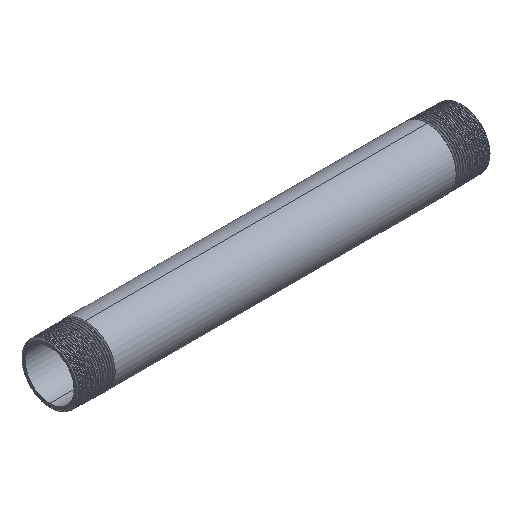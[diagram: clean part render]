
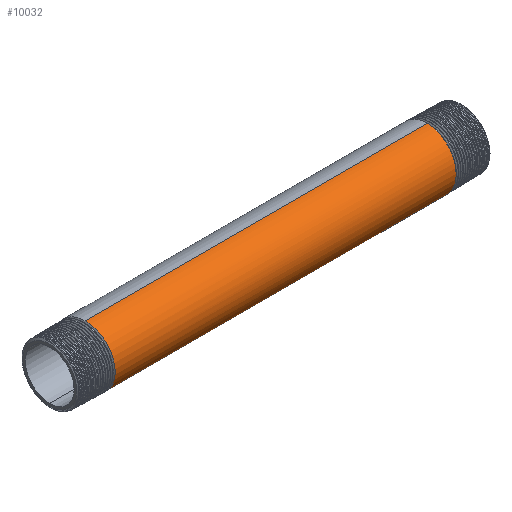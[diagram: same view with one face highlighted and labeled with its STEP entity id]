
A CAD part, isometric view. The second image highlights one B-rep face of the part: STEP entity #10032.
In plain terms, the highlighted cylindrical face has radius 8.6 mm (diameter 17.2 mm), a partial arc.
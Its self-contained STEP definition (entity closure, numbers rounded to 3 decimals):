
#171 = CARTESIAN_POINT ( 'NONE',  ( 49.734, -0.246, 8.597 ) ) ;
#228 = CARTESIAN_POINT ( 'NONE',  ( 49.718, -1.402, 8.49 ) ) ;
#327 = ORIENTED_EDGE ( 'NONE', *, *, #8134, .F. ) ;
#496 = ORIENTED_EDGE ( 'NONE', *, *, #2095, .T. ) ;
#588 = CARTESIAN_POINT ( 'NONE',  ( 49.585, -8.444, 1.66 ) ) ;
#695 = CARTESIAN_POINT ( 'NONE',  ( 49.443, -4.133, -7.544 ) ) ;
#750 = CARTESIAN_POINT ( 'NONE',  ( 49.552, -8.598, -0.766 ) ) ;
#803 = CARTESIAN_POINT ( 'NONE',  ( 49.418, -2.416, -8.28 ) ) ;
#861 = CARTESIAN_POINT ( 'NONE',  ( 49.634, -6.84, 5.244 ) ) ;
#980 = CARTESIAN_POINT ( 'NONE',  ( 49.624, -7.315, 4.524 ) ) ;
#1231 = B_SPLINE_CURVE_WITH_KNOTS ( 'NONE', 3,
 ( #6712, #10164, #1494, #8580, #803, #7618, #1551, #695, #2544, #3402, #4249, #10219, #6019, #10974, #7561, #1603, #4997, #4143, #11026, #7729, #6871, #11081, #3180, #3236, #3292, #6765, #750, #10278, #3343, #8528, #2433, #1709, #588, #4197, #7677, #11135, #5959, #9429, #4036, #6655, #4943, #8634, #1764, #980, #8690, #861, #6924, #4364, #3513, #10621, #5393, #228, #8861, #7091, #1926, #171, #7838, #7145, #10394, #10450 ),
 .UNSPECIFIED., .F., .F.,
 ( 4, 2, 2, 2, 2, 2, 2, 2, 2, 2, 2, 2, 2, 2, 2, 2, 2, 2, 2, 1, 2, 2, 1, 2, 2, 2, 2, 2, 1, 1, 2, 4 ),
 ( 0., 0.001, 0.003, 0.004, 0.004, 0.004, 0.006, 0.007, 0.008, 0.008, 0.008, 0.009, 0.01, 0.012, 0.012, 0.012, 0.013, 0.015, 0.015, 0.015, 0.016, 0.016, 0.016, 0.016, 0.018, 0.02, 0.022, 0.023, 0.023, 0.023, 0.023, 0.023 ),
 .UNSPECIFIED. ) ;
#1313 = ORIENTED_EDGE ( 'NONE', *, *, #5224, .T. ) ;
#1335 = VECTOR ( 'NONE', #4617, 1000. ) ;
#1494 = CARTESIAN_POINT ( 'NONE',  ( 49.397, -0.824, -8.576 ) ) ;
#1510 = CARTESIAN_POINT ( 'NONE',  ( -49.388, 0., -8.6 ) ) ;
#1551 = CARTESIAN_POINT ( 'NONE',  ( 49.436, -3.651, -7.795 ) ) ;
#1603 = CARTESIAN_POINT ( 'NONE',  ( 49.501, -7.295, -4.555 ) ) ;
#1709 = CARTESIAN_POINT ( 'NONE',  ( 49.581, -8.5, 1.348 ) ) ;
#1722 = CARTESIAN_POINT ( 'NONE',  ( -49.504, -7.448, -4.3 ) ) ;
#1761 = VERTEX_POINT ( 'NONE', #1510 ) ;
#1764 = CARTESIAN_POINT ( 'NONE',  ( 49.622, -7.396, 4.388 ) ) ;
#1926 = CARTESIAN_POINT ( 'NONE',  ( 49.731, -0.493, 8.588 ) ) ;
#2095 = EDGE_CURVE ( 'NONE', #4595, #6316, #1231, .T. ) ;
#2124 = LINE ( 'NONE', #5589, #1335 ) ;
#2433 = CARTESIAN_POINT ( 'NONE',  ( 49.574, -8.559, 0.855 ) ) ;
#2502 = CARTESIAN_POINT ( 'NONE',  ( -49.738, 0., 8.6 ) ) ;
#2544 = CARTESIAN_POINT ( 'NONE',  ( 49.446, -4.297, -7.452 ) ) ;
#3180 = CARTESIAN_POINT ( 'NONE',  ( 49.512, -7.739, -3.759 ) ) ;
#3236 = CARTESIAN_POINT ( 'NONE',  ( 49.52, -8.026, -3.124 ) ) ;
#3292 = CARTESIAN_POINT ( 'NONE',  ( 49.527, -8.214, -2.62 ) ) ;
#3343 = CARTESIAN_POINT ( 'NONE',  ( 49.567, -8.595, 0.341 ) ) ;
#3402 = CARTESIAN_POINT ( 'NONE',  ( 49.451, -4.607, -7.264 ) ) ;
#3496 = EDGE_CURVE ( 'NONE', #1761, #8803, #8864, .T. ) ;
#3513 = CARTESIAN_POINT ( 'NONE',  ( 49.676, -4.333, 7.514 ) ) ;
#3529 = CARTESIAN_POINT ( 'NONE',  ( -49.679, -4.965, 8.6 ) ) ;
#3607 = DIRECTION ( 'NONE',  ( 0., 0., 1. ) ) ;
#3664 = CYLINDRICAL_SURFACE ( 'NONE', #8050, 8.6 ) ;
#3742 = ORIENTED_EDGE ( 'NONE', *, *, #3496, .F. ) ;
#4036 = CARTESIAN_POINT ( 'NONE',  ( 49.62, -7.478, 4.248 ) ) ;
#4143 = CARTESIAN_POINT ( 'NONE',  ( 49.504, -7.428, -4.334 ) ) ;
#4197 = CARTESIAN_POINT ( 'NONE',  ( 49.597, -8.237, 2.544 ) ) ;
#4249 = CARTESIAN_POINT ( 'NONE',  ( 49.453, -4.755, -7.168 ) ) ;
#4322 = CARTESIAN_POINT ( 'NONE',  ( -49.563, -9.93, 0. ) ) ;
#4364 = CARTESIAN_POINT ( 'NONE',  ( 49.662, -5.287, 6.876 ) ) ;
#4381 = CARTESIAN_POINT ( 'NONE',  ( -49.388, 0., -8.6 ) ) ;
#4595 = VERTEX_POINT ( 'NONE', #10611 ) ;
#4617 = DIRECTION ( 'NONE',  ( -1., 0., 0. ) ) ;
#4943 = CARTESIAN_POINT ( 'NONE',  ( 49.622, -7.419, 4.349 ) ) ;
#4997 = CARTESIAN_POINT ( 'NONE',  ( 49.502, -7.351, -4.465 ) ) ;
#5224 = EDGE_CURVE ( 'NONE', #6316, #8803, #10416, .T. ) ;
#5345 = CARTESIAN_POINT ( 'NONE',  ( 49.738, 0., 8.6 ) ) ;
#5393 = CARTESIAN_POINT ( 'NONE',  ( 49.706, -2.231, 8.325 ) ) ;
#5589 = CARTESIAN_POINT ( 'NONE',  ( -149.494, 0., -8.6 ) ) ;
#5959 = CARTESIAN_POINT ( 'NONE',  ( 49.616, -7.647, 3.941 ) ) ;
#5973 = CARTESIAN_POINT ( 'NONE',  ( -49.738, 0., 8.6 ) ) ;
#6019 = CARTESIAN_POINT ( 'NONE',  ( 49.473, -5.934, -6.251 ) ) ;
#6099 = DIRECTION ( 'NONE',  ( -1., 0., 0. ) ) ;
#6291 = CARTESIAN_POINT ( 'NONE',  ( -149.494, 0., 0. ) ) ;
#6316 = VERTEX_POINT ( 'NONE', #5345 ) ;
#6655 = CARTESIAN_POINT ( 'NONE',  ( 49.621, -7.439, 4.316 ) ) ;
#6712 = CARTESIAN_POINT ( 'NONE',  ( 49.388, 0., -8.6 ) ) ;
#6765 = CARTESIAN_POINT ( 'NONE',  ( 49.543, -8.5, -1.441 ) ) ;
#6871 = CARTESIAN_POINT ( 'NONE',  ( 49.506, -7.524, -4.166 ) ) ;
#6924 = CARTESIAN_POINT ( 'NONE',  ( 49.641, -6.481, 5.681 ) ) ;
#6993 = CARTESIAN_POINT ( 'NONE',  ( -49.738, 0., 8.6 ) ) ;
#7091 = CARTESIAN_POINT ( 'NONE',  ( 49.728, -0.703, 8.572 ) ) ;
#7145 = CARTESIAN_POINT ( 'NONE',  ( 49.737, -0.07, 8.6 ) ) ;
#7561 = CARTESIAN_POINT ( 'NONE',  ( 49.494, -6.999, -5.016 ) ) ;
#7613 = VECTOR ( 'NONE', #6099, 1000. ) ;
#7618 = CARTESIAN_POINT ( 'NONE',  ( 49.431, -3.335, -7.934 ) ) ;
#7677 = CARTESIAN_POINT ( 'NONE',  ( 49.604, -8.051, 3.062 ) ) ;
#7729 = CARTESIAN_POINT ( 'NONE',  ( 49.505, -7.5, -4.208 ) ) ;
#7838 = CARTESIAN_POINT ( 'NONE',  ( 49.736, -0.141, 8.599 ) ) ;
#7854 = CARTESIAN_POINT ( 'NONE',  ( -49.621, -7.448, 4.3 ) ) ;
#7995 = FACE_OUTER_BOUND ( 'NONE', #10572, .T. ) ;
#8050 = AXIS2_PLACEMENT_3D ( 'NONE', #6291, #9634, #3607 ) ;
#8134 = EDGE_CURVE ( 'NONE', #4595, #1761, #2124, .T. ) ;
#8528 = CARTESIAN_POINT ( 'NONE',  ( 49.572, -8.574, 0.686 ) ) ;
#8580 = CARTESIAN_POINT ( 'NONE',  ( 49.411, -1.843, -8.416 ) ) ;
#8634 = CARTESIAN_POINT ( 'NONE',  ( 49.622, -7.414, 4.358 ) ) ;
#8690 = CARTESIAN_POINT ( 'NONE',  ( 49.626, -7.231, 4.658 ) ) ;
#8803 = VERTEX_POINT ( 'NONE', #9351 ) ;
#8861 = CARTESIAN_POINT ( 'NONE',  ( 49.722, -1.123, 8.531 ) ) ;
#8864 =( BOUNDED_CURVE ( )  B_SPLINE_CURVE ( 2, ( #4381, #10293, #1722, #4322, #7854, #3529, #2502, #5973, #6993 ),
 .UNSPECIFIED., .F., .F. ) 
 B_SPLINE_CURVE_WITH_KNOTS ( ( 3, 2, 2, 2, 3 ),
 ( 0., 0.008, 0.016, 0.023, 0.023 ),
 .UNSPECIFIED. ) 
 CURVE ( )  GEOMETRIC_REPRESENTATION_ITEM ( )  RATIONAL_B_SPLINE_CURVE ( ( 1., 0.866, 1., 0.866, 1., 0.866, 1., 1., 1. ) ) 
 REPRESENTATION_ITEM ( '' )  );
#9351 = CARTESIAN_POINT ( 'NONE',  ( -49.738, 0., 8.6 ) ) ;
#9429 = CARTESIAN_POINT ( 'NONE',  ( 49.619, -7.517, 4.178 ) ) ;
#9634 = DIRECTION ( 'NONE',  ( -1., 0., 0. ) ) ;
#10032 = ADVANCED_FACE ( 'NONE', ( #7995 ), #3664, .T. ) ;
#10164 = CARTESIAN_POINT ( 'NONE',  ( 49.392, -0.377, -8.6 ) ) ;
#10219 = CARTESIAN_POINT ( 'NONE',  ( 49.465, -5.466, -6.676 ) ) ;
#10278 = CARTESIAN_POINT ( 'NONE',  ( 49.565, -8.6, 0.168 ) ) ;
#10293 = CARTESIAN_POINT ( 'NONE',  ( -49.446, -4.965, -8.6 ) ) ;
#10394 = CARTESIAN_POINT ( 'NONE',  ( 49.737, -0.033, 8.6 ) ) ;
#10416 = LINE ( 'NONE', #11212, #7613 ) ;
#10450 = CARTESIAN_POINT ( 'NONE',  ( 49.738, 0., 8.6 ) ) ;
#10572 = EDGE_LOOP ( 'NONE', ( #327, #496, #1313, #3742 ) ) ;
#10611 = CARTESIAN_POINT ( 'NONE',  ( 49.388, 0., -8.6 ) ) ;
#10621 = CARTESIAN_POINT ( 'NONE',  ( 49.699, -2.772, 8.16 ) ) ;
#10974 = CARTESIAN_POINT ( 'NONE',  ( 49.488, -6.7, -5.421 ) ) ;
#11026 = CARTESIAN_POINT ( 'NONE',  ( 49.504, -7.454, -4.29 ) ) ;
#11081 = CARTESIAN_POINT ( 'NONE',  ( 49.509, -7.642, -3.95 ) ) ;
#11135 = CARTESIAN_POINT ( 'NONE',  ( 49.613, -7.751, 3.734 ) ) ;
#11212 = CARTESIAN_POINT ( 'NONE',  ( -149.494, 0., 8.6 ) ) ;
